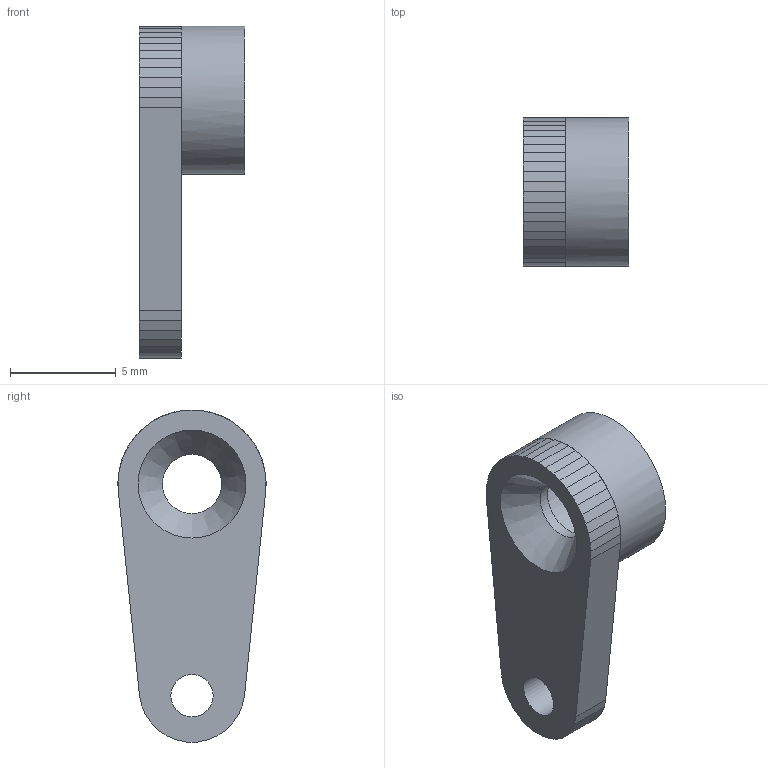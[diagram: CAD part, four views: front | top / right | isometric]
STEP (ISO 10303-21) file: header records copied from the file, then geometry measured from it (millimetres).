
FILE_DESCRIPTION(('Open CASCADE Model'),'2;1');
FILE_NAME('Open CASCADE Shape Model','2026-11-23T18:10:16',('Author'),( 'Open CASCADE'),'Open CASCADE STEP processor 8.0','build123d', 'Unknown');
FILE_SCHEMA(('AUTOMOTIVE_DESIGN { 1 0 10303 214 1 1 1 1 }'));
Length unit declared in the file: millimetre
Products named in the file (1): SOLID
Bounding box: 5 x 7 x 15.69 mm (x, y, z)
Volume: 207.7 mm3; surface area: 370.5 mm2
Topology: 1 solids, 1 shells, 74 faces, 162 edges, 91 vertices
Faces by surface type: plane 69, cylinder 4, cone 1
Full cylindrical faces by diameter (mm): 2 x1, 2.8 x1, 4.8 x1, 7 x1
Entity records: 4076 total; most frequent: DIRECTION 670, CARTESIAN_POINT 652, LINE 419, VECTOR 419, ORIENTED_EDGE 324, PCURVE 324, DEFINITIONAL_REPRESENTATION 324, EDGE_CURVE 162
